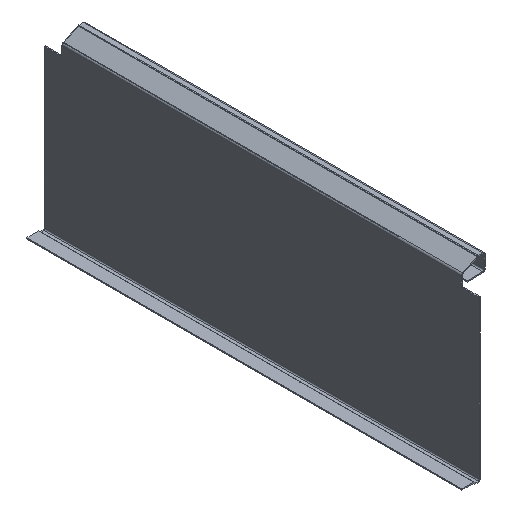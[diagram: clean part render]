
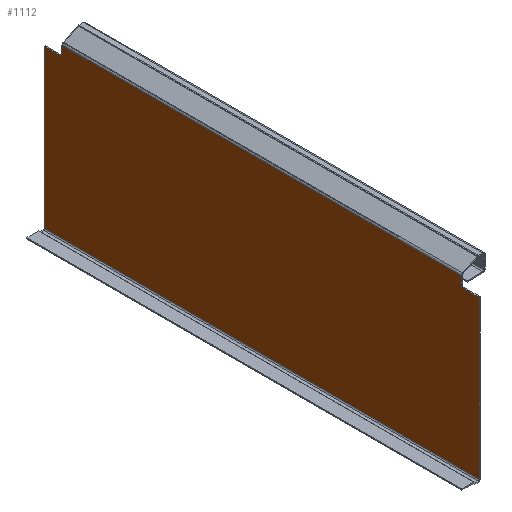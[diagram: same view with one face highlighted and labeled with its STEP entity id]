
A CAD part, isometric view. The second image highlights one B-rep face of the part: STEP entity #1112.
In plain terms, the highlighted planar face has unit normal (-1, 0, 0).
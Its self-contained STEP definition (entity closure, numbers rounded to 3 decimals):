
#21 = PLANE ( 'NONE',  #1016 ) ;
#23 = DIRECTION ( 'NONE',  ( 1., 0., 0. ) ) ;
#24 = DIRECTION ( 'NONE',  ( 0., 0., 1. ) ) ;
#44 = CARTESIAN_POINT ( 'NONE',  ( 0., 0., 154.601 ) ) ;
#108 = DIRECTION ( 'NONE',  ( 0., -1., 0. ) ) ;
#109 = CARTESIAN_POINT ( 'NONE',  ( 0., 403., 145.5 ) ) ;
#179 = DIRECTION ( 'NONE',  ( 0., 0., -1. ) ) ;
#184 = CARTESIAN_POINT ( 'NONE',  ( 0., 0., 145.5 ) ) ;
#185 = DIRECTION ( 'NONE',  ( 0., -1., 0. ) ) ;
#186 = CARTESIAN_POINT ( 'NONE',  ( 0., 16.5, 163. ) ) ;
#189 = DIRECTION ( 'NONE',  ( 0., 0., -1. ) ) ;
#190 = CARTESIAN_POINT ( 'NONE',  ( 0., 0., 154.601 ) ) ;
#191 = DIRECTION ( 'NONE',  ( 0., 0., -1. ) ) ;
#251 = CARTESIAN_POINT ( 'NONE',  ( 0., 403., 145.5 ) ) ;
#257 = CARTESIAN_POINT ( 'NONE',  ( 0., 386.5, 154.601 ) ) ;
#266 = CARTESIAN_POINT ( 'NONE',  ( 0., 0., 145.5 ) ) ;
#279 = CARTESIAN_POINT ( 'NONE',  ( 0., 0., -0.5 ) ) ;
#288 = VERTEX_POINT ( 'NONE', #295 ) ;
#295 = CARTESIAN_POINT ( 'NONE',  ( 0., 16.5, 145.5 ) ) ;
#306 = VERTEX_POINT ( 'NONE', #321 ) ;
#310 = VERTEX_POINT ( 'NONE', #317 ) ;
#314 = VERTEX_POINT ( 'NONE', #412 ) ;
#317 = CARTESIAN_POINT ( 'NONE',  ( 0., 403., -0.5 ) ) ;
#321 = CARTESIAN_POINT ( 'NONE',  ( 0., 16.5, 154.601 ) ) ;
#329 = VERTEX_POINT ( 'NONE', #279 ) ;
#353 = DIRECTION ( 'NONE',  ( 0., 1., 0. ) ) ;
#355 = CARTESIAN_POINT ( 'NONE',  ( 0., 0., 154.601 ) ) ;
#376 = CARTESIAN_POINT ( 'NONE',  ( 0., 0., -0.5 ) ) ;
#377 = DIRECTION ( 'NONE',  ( 0., 1., 0. ) ) ;
#412 = CARTESIAN_POINT ( 'NONE',  ( 0., 386.5, 145.5 ) ) ;
#417 = VERTEX_POINT ( 'NONE', #266 ) ;
#428 = VERTEX_POINT ( 'NONE', #257 ) ;
#435 = VERTEX_POINT ( 'NONE', #251 ) ;
#454 = CARTESIAN_POINT ( 'NONE',  ( 0., 386.5, 163. ) ) ;
#455 = DIRECTION ( 'NONE',  ( 0., 0., 1. ) ) ;
#456 = CARTESIAN_POINT ( 'NONE',  ( 0., 403., 154.601 ) ) ;
#498 = LINE ( 'NONE', #456, #939 ) ;
#505 = LINE ( 'NONE', #355, #508 ) ;
#508 = VECTOR ( 'NONE', #353, 1000. ) ;
#512 = VECTOR ( 'NONE', #377, 1000. ) ;
#517 = LINE ( 'NONE', #109, #904 ) ;
#526 = LINE ( 'NONE', #454, #920 ) ;
#589 = LINE ( 'NONE', #184, #897 ) ;
#590 = LINE ( 'NONE', #190, #941 ) ;
#600 = FACE_OUTER_BOUND ( 'NONE', #639, .T. ) ;
#610 = ORIENTED_EDGE ( 'NONE', *, *, #1083, .T. ) ;
#616 = ORIENTED_EDGE ( 'NONE', *, *, #1092, .F. ) ;
#617 = ORIENTED_EDGE ( 'NONE', *, *, #1094, .F. ) ;
#639 = EDGE_LOOP ( 'NONE', ( #610, #757, #667, #665, #743, #616, #755, #617 ) ) ;
#665 = ORIENTED_EDGE ( 'NONE', *, *, #1091, .T. ) ;
#667 = ORIENTED_EDGE ( 'NONE', *, *, #1090, .F. ) ;
#709 = LINE ( 'NONE', #186, #892 ) ;
#743 = ORIENTED_EDGE ( 'NONE', *, *, #1063, .F. ) ;
#755 = ORIENTED_EDGE ( 'NONE', *, *, #1093, .F. ) ;
#757 = ORIENTED_EDGE ( 'NONE', *, *, #1087, .F. ) ;
#892 = VECTOR ( 'NONE', #179, 1000. ) ;
#897 = VECTOR ( 'NONE', #185, 1000. ) ;
#904 = VECTOR ( 'NONE', #108, 1000. ) ;
#920 = VECTOR ( 'NONE', #455, 1000. ) ;
#937 = LINE ( 'NONE', #376, #512 ) ;
#939 = VECTOR ( 'NONE', #189, 1000. ) ;
#941 = VECTOR ( 'NONE', #191, 1000. ) ;
#1016 = AXIS2_PLACEMENT_3D ( 'NONE', #44, #23, #24 ) ;
#1063 = EDGE_CURVE ( 'NONE', #329, #310, #937, .T. ) ;
#1083 = EDGE_CURVE ( 'NONE', #306, #428, #505, .T. ) ;
#1087 = EDGE_CURVE ( 'NONE', #314, #428, #526, .T. ) ;
#1090 = EDGE_CURVE ( 'NONE', #435, #314, #517, .T. ) ;
#1091 = EDGE_CURVE ( 'NONE', #435, #310, #498, .T. ) ;
#1092 = EDGE_CURVE ( 'NONE', #417, #329, #590, .T. ) ;
#1093 = EDGE_CURVE ( 'NONE', #288, #417, #589, .T. ) ;
#1094 = EDGE_CURVE ( 'NONE', #306, #288, #709, .T. ) ;
#1112 = ADVANCED_FACE ( 'NONE', ( #600 ), #21, .F. ) ;
